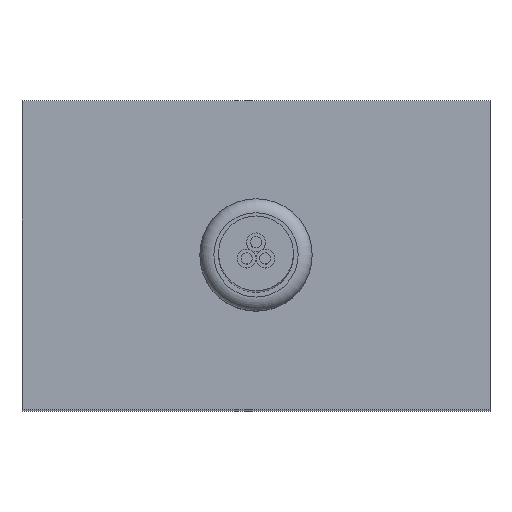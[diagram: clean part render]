
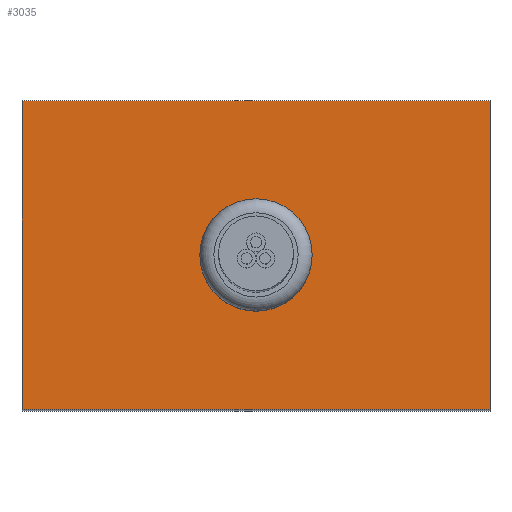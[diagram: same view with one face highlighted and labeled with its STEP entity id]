
A CAD part, top view. The second image highlights one B-rep face of the part: STEP entity #3035.
In plain terms, the highlighted planar face has unit normal (0, 0, 1).
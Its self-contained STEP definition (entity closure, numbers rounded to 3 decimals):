
#255=LINE('',#3968,#442);
#266=LINE('',#3994,#453);
#312=LINE('',#4247,#499);
#313=LINE('',#4249,#500);
#442=VECTOR('',#3397,10.);
#453=VECTOR('',#3416,10.);
#499=VECTOR('',#3610,10.);
#500=VECTOR('',#3613,10.);
#657=PLANE('',#3268);
#925=FACE_BOUND('',#1239,.T.);
#1022=FACE_OUTER_BOUND('',#1238,.T.);
#1238=EDGE_LOOP('',(#2389,#2390,#2391,#2392));
#1239=EDGE_LOOP('',(#2393));
#1433=CIRCLE('',#3269,3.);
#1478=VERTEX_POINT('',#3965);
#1479=VERTEX_POINT('',#3967);
#1489=VERTEX_POINT('',#3991);
#1490=VERTEX_POINT('',#3993);
#1558=VERTEX_POINT('',#4268);
#1755=EDGE_CURVE('',#1478,#1479,#255,.T.);
#1768=EDGE_CURVE('',#1489,#1490,#266,.T.);
#1862=EDGE_CURVE('',#1490,#1478,#312,.T.);
#1863=EDGE_CURVE('',#1489,#1479,#313,.T.);
#1871=EDGE_CURVE('',#1558,#1558,#1433,.T.);
#2389=ORIENTED_EDGE('',*,*,#1862,.F.);
#2390=ORIENTED_EDGE('',*,*,#1768,.F.);
#2391=ORIENTED_EDGE('',*,*,#1863,.T.);
#2392=ORIENTED_EDGE('',*,*,#1755,.F.);
#2393=ORIENTED_EDGE('',*,*,#1871,.T.);
#3035=ADVANCED_FACE('',(#1022,#925),#657,.T.);
#3268=AXIS2_PLACEMENT_3D('',#4267,#3629,#3630);
#3269=AXIS2_PLACEMENT_3D('',#4269,#3631,#3632);
#3397=DIRECTION('',(0.,1.,0.));
#3416=DIRECTION('',(0.,-1.,0.));
#3610=DIRECTION('',(-1.,0.,0.));
#3613=DIRECTION('',(-1.,0.,0.));
#3629=DIRECTION('center_axis',(0.,0.,1.));
#3630=DIRECTION('ref_axis',(0.,-1.,0.));
#3631=DIRECTION('center_axis',(0.,0.,-1.));
#3632=DIRECTION('ref_axis',(0.,1.,0.));
#3965=CARTESIAN_POINT('',(-12.5,-8.25,59.5));
#3967=CARTESIAN_POINT('',(-12.5,8.25,59.5));
#3968=CARTESIAN_POINT('',(-12.5,-8.25,59.5));
#3991=CARTESIAN_POINT('',(12.5,8.25,59.5));
#3993=CARTESIAN_POINT('',(12.5,-8.25,59.5));
#3994=CARTESIAN_POINT('',(12.5,-8.25,59.5));
#4247=CARTESIAN_POINT('',(0.,-8.25,59.5));
#4249=CARTESIAN_POINT('',(0.,8.25,59.5));
#4267=CARTESIAN_POINT('Origin',(0.,8.25,59.5));
#4268=CARTESIAN_POINT('',(0.,3.,59.5));
#4269=CARTESIAN_POINT('Origin',(0.,0.,59.5));
